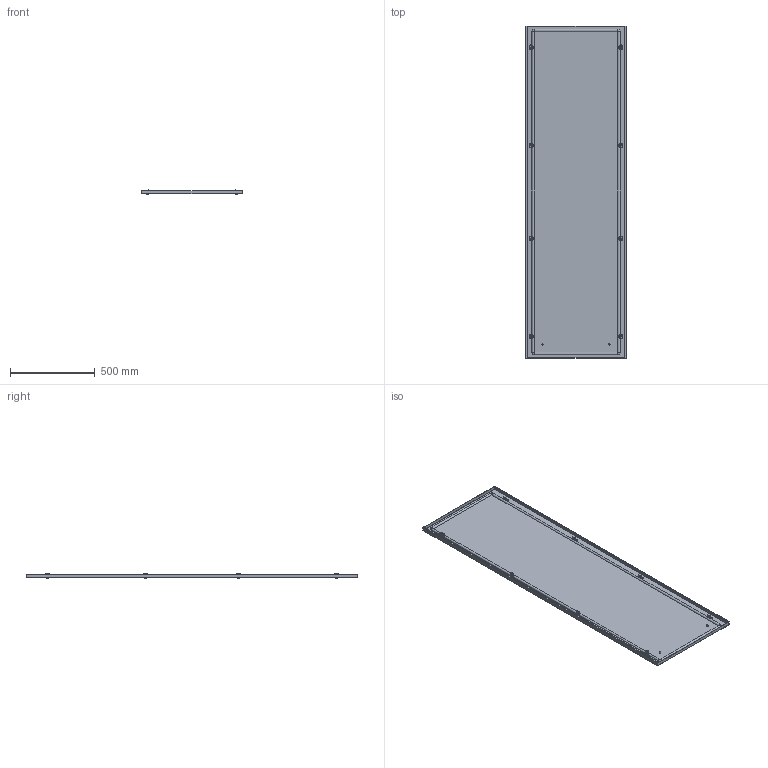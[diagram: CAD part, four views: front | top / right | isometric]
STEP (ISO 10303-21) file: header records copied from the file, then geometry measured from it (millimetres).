
FILE_DESCRIPTION(('Open CASCADE Model'),'2;1');
FILE_NAME('Open CASCADE Shape Model','2025-02-07T16:30:47',('Author'),( 'Open CASCADE'),'Open CASCADE STEP processor 7.8','Open CASCADE 7.8' ,'Unknown');
FILE_SCHEMA(('AUTOMOTIVE_DESIGN { 1 0 10303 214 1 1 1 1 }'));
Length unit declared in the file: millimetre
Products named in the file (10): Compound1; Compound2; Compound3; Solid1; Solid2; Solid3; Solid4; Solid5; Solid6; Solid7
Assembly tree (40 placements, depth 4):
  Compound1
    Compound2
      Compound3
        Solid1
        Solid2  x4
      Solid3
    Solid4  x8
    Solid5  x8
    Solid6  x8
    Solid7  x8
Bounding box: 594 x 1955 x 23.8 mm (x, y, z)
Volume: 2389498.2 mm3; surface area: 2817062.1 mm2
Topology: 38 solids, 38 shells, 1655 faces, 4040 edges, 2460 vertices
Faces by surface type: plane 1043, cone 308, cylinder 268, torus 27, bspline 8, revolution 1
Full cylindrical faces by diameter (mm): 5 x16, 6 x132, 7.5 x4, 8 x16, 10 x8, 11.57 x8
Entity records: 7779 total; most frequent: CARTESIAN_POINT 1469, DIRECTION 1264, ORIENTED_EDGE 1244, EDGE_CURVE 622, AXIS2_PLACEMENT_3D 427, LINE 409, VECTOR 409, VERTEX_POINT 387
